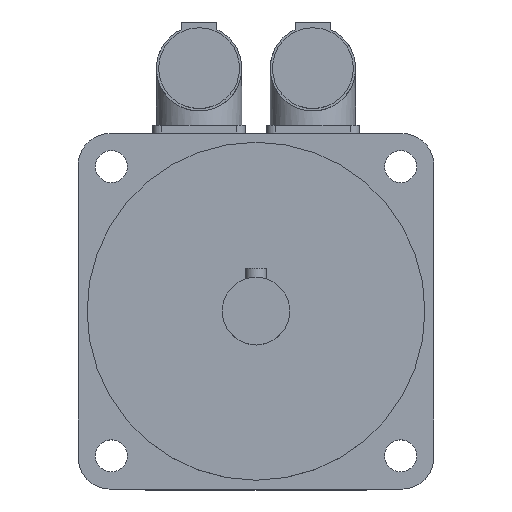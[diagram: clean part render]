
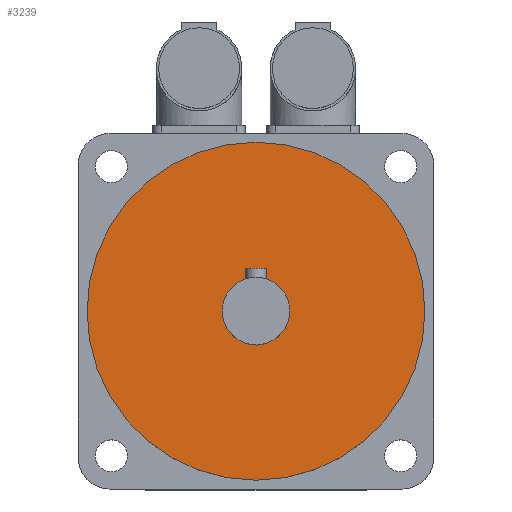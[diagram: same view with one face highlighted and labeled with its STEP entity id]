
A CAD part, top view. The second image highlights one B-rep face of the part: STEP entity #3239.
In plain terms, the highlighted planar face has unit normal (0, 0, 1).
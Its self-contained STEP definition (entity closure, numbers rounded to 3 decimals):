
#36=FACE_BOUND('',#567,.T.);
#71=PLANE('',#3478);
#182=CIRCLE('',#3473,9.5);
#183=CIRCLE('',#3476,47.5);
#368=FACE_OUTER_BOUND('',#566,.T.);
#566=EDGE_LOOP('',(#2309));
#567=EDGE_LOOP('',(#2310));
#1393=VERTEX_POINT('',#5230);
#1394=VERTEX_POINT('',#5234);
#1743=EDGE_CURVE('',#1393,#1393,#182,.T.);
#1744=EDGE_CURVE('',#1394,#1394,#183,.T.);
#2309=ORIENTED_EDGE('',*,*,#1744,.T.);
#2310=ORIENTED_EDGE('',*,*,#1743,.T.);
#3239=ADVANCED_FACE('',(#368,#36),#71,.F.);
#3473=AXIS2_PLACEMENT_3D('',#5231,#3962,#3963);
#3476=AXIS2_PLACEMENT_3D('',#5235,#3968,#3969);
#3478=AXIS2_PLACEMENT_3D('',#5238,#3972,#3973);
#3962=DIRECTION('center_axis',(0.,0.,-1.));
#3963=DIRECTION('ref_axis',(-1.,0.,0.));
#3968=DIRECTION('center_axis',(0.,0.,
1.));
#3969=DIRECTION('ref_axis',(-1.,0.,0.));
#3972=DIRECTION('center_axis',(0.,0.,-1.));
#3973=DIRECTION('ref_axis',(-1.,0.,0.));
#5230=CARTESIAN_POINT('',(9.5,0.,130.));
#5231=CARTESIAN_POINT('Origin',(0.,0.,
130.));
#5234=CARTESIAN_POINT('',(47.5,0.,130.));
#5235=CARTESIAN_POINT('Origin',(0.,0.,
130.));
#5238=CARTESIAN_POINT('Origin',(0.,0.,
130.));
